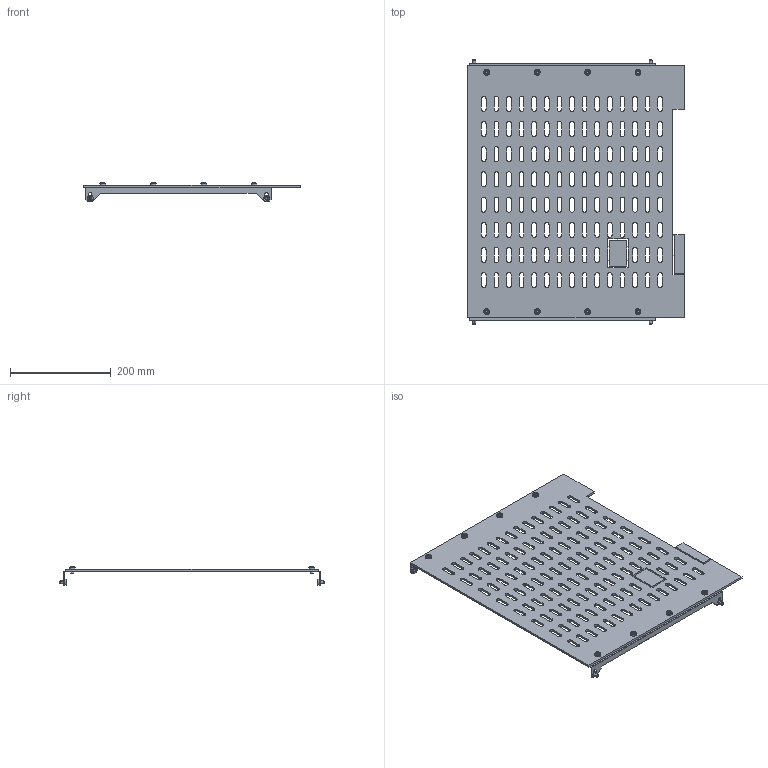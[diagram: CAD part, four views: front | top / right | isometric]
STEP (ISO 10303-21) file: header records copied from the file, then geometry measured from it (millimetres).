
FILE_DESCRIPTION (( 'STEP AP214' ), '1' );
FILE_NAME ('FO-00-3BABW-060-040 Êîìïëåêò ñåêöèîíèðîâàíèÿ 3b äëÿ ARMAT ACB òèïîðàçìåð AIIB âûêàòíîãî èñïîëíåíèÿ 3II4P 600õ400 â øêàô ãëóáèíîé 800ìì.STEP', '2025-08-12T06:56:40', ( '' ), ( '' ), 'SwSTEP 2.0', 'SolidWorks 2023', '' );
FILE_SCHEMA (( 'AUTOMOTIVE_DESIGN' ));
Length unit declared in the file: millimetre
Products named in the file (3): Комплект секционирования 3b для ARMAT ACB типоразмер AIIB выкатного исполнения 3II4P 600х400 в шкаф глубиной 800мм; 2хМ6х10х400; FO-00-3BABW-060-040 Комплект секционирования 3b для ARMAT ACB типоразмер AIIB выкатного исполнения 3II4P 600х400 в шкаф глубиной 800мм
Assembly tree (3 placements, depth 2):
  FO-00-3BABW-060-040 Комплект секционирования 3b для ARMAT ACB типоразмер AIIB выкатного исполнения 3II4P 600х400 в шкаф глубиной 800мм
    Комплект секционирования 3b для ARMAT ACB типоразмер AIIB выкатного исполнения 3II4P 600х400 в шкаф глубиной 800мм
    2хМ6х10х400  x2
Bounding box: 430 x 525 x 37 mm (x, y, z)
Volume: 764818.1 mm3; surface area: 432214.2 mm2
Topology: 5 solids, 13 shells, 986 faces, 2704 edges, 1772 vertices
Faces by surface type: cylinder 508, plane 390, cone 40, torus 40, sphere 8
Entity records: 30603 total; most frequent: DIRECTION 5426, CARTESIAN_POINT 5320, ORIENTED_EDGE 5132, EDGE_CURVE 2566, AXIS2_PLACEMENT_3D 1958, VERTEX_POINT 1684, VECTOR 1510, LINE 1510
